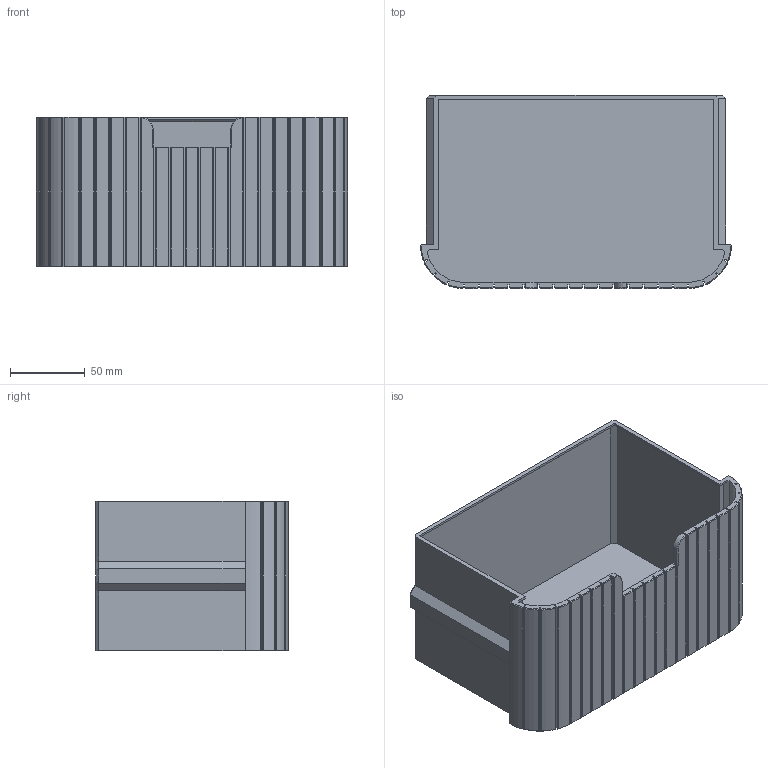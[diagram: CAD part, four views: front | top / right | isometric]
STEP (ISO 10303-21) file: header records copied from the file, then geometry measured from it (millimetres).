
FILE_DESCRIPTION(/* description */ (''),/* implementation_level */ '2;1');
FILE_NAME(/* name */ 'StackDrawerBox2-drawer2.step',/* time_stamp */ '2024-06-28T20:54:53+02:00',/* author */ (''),/* organization */ (''),/* preprocessor_version */ 'ST-DEVELOPER v20',/* originating_system */ 'Autodesk Translation Framework v13.14.0.145',/* authorisation */ '');
FILE_SCHEMA (('AUTOMOTIVE_DESIGN { 1 0 10303 214 3 1 1 }'));
Length unit declared in the file: millimetre
Products named in the file (2): StackDrawerBox2-base2; Component1
Assembly tree (1 placements, depth 2):
  StackDrawerBox2-base2
    Component1
Bounding box: 207.99 x 129 x 100 mm (x, y, z)
Volume: 196230.7 mm3; surface area: 183371.7 mm2
Topology: 1 solids, 1 shells, 242 faces, 632 edges, 392 vertices
Faces by surface type: plane 204, cylinder 20, cone 18
Entity records: 7274 total; most frequent: CARTESIAN_POINT 1421, ORIENTED_EDGE 1264, DIRECTION 1120, EDGE_CURVE 632, LINE 514, VECTOR 514, VERTEX_POINT 392, AXIS2_PLACEMENT_3D 303
